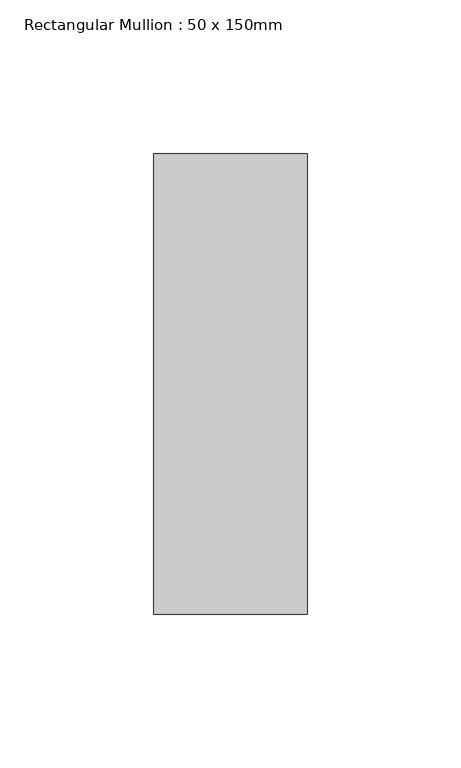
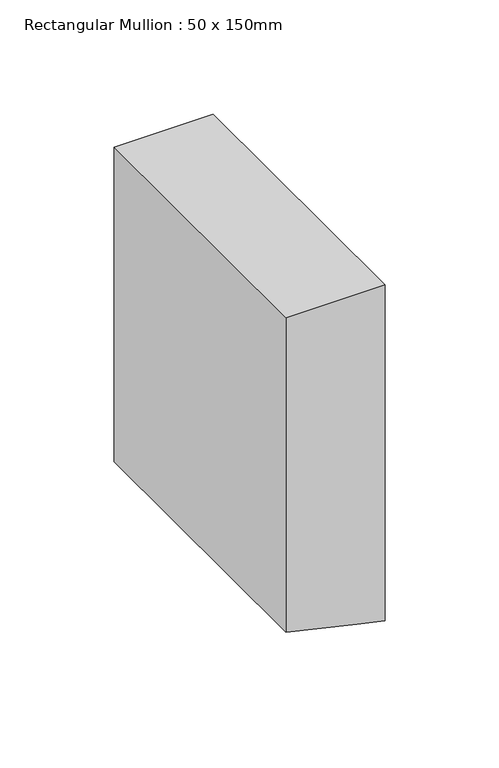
"""IFC4 building model written with IfcOpenShell, lengths in millimetres: member geometry, Rectangular Mullion : 50 x 150mm."""

import ifcopenshell
import ifcopenshell.guid

model = None  # the IFC model being written
_history = None  # IfcOwnerHistory: only IFC2X3 demands one
_inside = {}  # id of a spatial element -> (the spatial element, [elements in it])
_under = {}  # id of a project, library or spatial element -> (it, [spatial elements below it])
_declared = {}  # id of a project -> (the project, [libraries it declares])
_typed = {}  # id of a type object -> (the type object, [elements of that type])
_made_of = {}  # id of a material, layer set ... -> (it, [elements and type objects made of it])


def new_model(schema):
    """Start an empty IFC model of exactly this schema.

    Asked for "IFC4X3", IfcOpenShell would pick the latest addendum, in which some entities
    have other attributes; the version numbers below select the first issue.
    IFC2X3 requires an IfcOwnerHistory on every rooted entity: one is made here for all.
    """
    global model, _history
    if schema == "IFC4X3":
        model = ifcopenshell.file(schema_version=(4, 3, 0, 0))
    else:
        model = ifcopenshell.file(schema=schema)
    _inside.clear()
    _under.clear()
    _declared.clear()
    _typed.clear()
    _made_of.clear()
    _history = None
    if model.schema == "IFC2X3":
        org = make("IfcOrganization", Name="unknown")
        user = make(
            "IfcPersonAndOrganization",
            ThePerson=make("IfcPerson", FamilyName="unknown"),
            TheOrganization=org,
        )
        app = make(
            "IfcApplication",
            ApplicationDeveloper=org,
            Version="unknown",
            ApplicationFullName="unknown",
            ApplicationIdentifier="unknown",
        )
        _history = make(
            "IfcOwnerHistory",
            OwningUser=user,
            OwningApplication=app,
            ChangeAction="ADDED",
            CreationDate=0,
        )
    return model


def make(cls, **values):
    """One entity of the class cls with the attributes given. An attribute that is None is left unset."""
    return model.create_entity(
        cls, **{name: value for name, value in values.items() if value is not None}
    )


def rooted(cls, **values):
    """An entity with a GlobalId (a new one), such as an element, a storey or a relation."""
    return make(cls, GlobalId=ifcopenshell.guid.new(), OwnerHistory=_history, **values)


def si_unit(unit_type, name, prefix=None):
    """IfcSIUnit, for example si_unit("LENGTHUNIT", "METRE", prefix="MILLI")."""
    return make("IfcSIUnit", UnitType=unit_type, Prefix=prefix, Name=name)


def assignment(units):
    """IfcUnitAssignment: the units of a project."""
    return None if units is None else make("IfcUnitAssignment", Units=units)


def point(xyz):
    """IfcCartesianPoint."""
    return None if xyz is None else make("IfcCartesianPoint", Coordinates=xyz)


def direction(xyz):
    """IfcDirection."""
    return None if xyz is None else make("IfcDirection", DirectionRatios=xyz)


def frame(location, z_axis=None, x_axis=None):
    """IfcAxis2Placement3D, a coordinate frame: its origin and axes. An axis left out is left unset."""
    return make(
        "IfcAxis2Placement3D",
        Location=point(location),
        Axis=direction(z_axis),
        RefDirection=direction(x_axis),
    )


def origin():
    """The frame at (0, 0, 0) with its axes left unset."""
    return frame((0.0, 0.0, 0.0))


def place(relative_to, where):
    """IfcLocalPlacement: puts the frame where relative to a parent placement (None: the world)."""
    return make(
        "IfcLocalPlacement", PlacementRelTo=relative_to, RelativePlacement=where
    )


def context(
    kind, dimensions, precision=None, world=None, true_north=None, identifier=None
):
    """IfcGeometricRepresentationContext, for example the 3D "Model" context."""
    return make(
        "IfcGeometricRepresentationContext",
        ContextIdentifier=identifier,
        ContextType=kind,
        CoordinateSpaceDimension=dimensions,
        Precision=precision,
        WorldCoordinateSystem=world,
        TrueNorth=true_north,
    )


def project(units=None, contexts=None):
    """IfcProject with its units and contexts."""
    return rooted(
        "IfcProject",
        Name="project",
        RepresentationContexts=contexts,
        UnitsInContext=assignment(units),
    )


def spatial(cls, under=None, at=None, **own):
    """A site, building, storey or space (cls), placed at a placement, below another one or the project."""
    s = rooted(cls, ObjectPlacement=at, **own)
    if under is not None:
        _under.setdefault(under.id(), (under, []))[1].append(s)
    return s


def polyline(points):
    """IfcPolyline through the points."""
    return make("IfcPolyline", Points=[point(p) for p in points])


def outline(outer, holes=None, kind="AREA"):
    """IfcArbitraryClosedProfileDef: a profile drawn as a closed curve; with holes, ...WithVoids."""
    if holes is None:
        return make("IfcArbitraryClosedProfileDef", ProfileType=kind, OuterCurve=outer)
    return make(
        "IfcArbitraryProfileDefWithVoids",
        ProfileType=kind,
        OuterCurve=outer,
        InnerCurves=holes,
    )


def extrude(swept, where, along, depth):
    """IfcExtrudedAreaSolid: the profile swept, set in the frame where, extruded along a direction by depth."""
    return make(
        "IfcExtrudedAreaSolid",
        SweptArea=swept,
        Position=where,
        ExtrudedDirection=direction(along),
        Depth=depth,
    )


def shape(context_of_items, identifier, shape_type, items):
    """IfcShapeRepresentation: the items that make up one representation, for example the "Body"."""
    return make(
        "IfcShapeRepresentation",
        ContextOfItems=context_of_items,
        RepresentationIdentifier=identifier,
        RepresentationType=shape_type,
        Items=items,
    )


def source(mapping_origin, context_of_items, identifier, shape_type, items):
    """IfcRepresentationMap: a shape defined once, which mapped items show again and again."""
    return make(
        "IfcRepresentationMap",
        MappingOrigin=mapping_origin,
        MappedRepresentation=shape(context_of_items, identifier, shape_type, items),
    )


def transform(
    local_origin,
    x_axis=None,
    y_axis=None,
    z_axis=None,
    scale=None,
    scale2=None,
    scale3=None,
    uniform=True,
):
    """IfcCartesianTransformationOperator3D, or its non-uniform kind. x_axis, y_axis, z_axis: its Axis1, 2, 3."""
    if uniform:
        return make(
            "IfcCartesianTransformationOperator3D",
            Axis1=direction(x_axis),
            Axis2=direction(y_axis),
            LocalOrigin=point(local_origin),
            Scale=scale,
            Axis3=direction(z_axis),
        )
    return make(
        "IfcCartesianTransformationOperator3DnonUniform",
        Axis1=direction(x_axis),
        Axis2=direction(y_axis),
        LocalOrigin=point(local_origin),
        Scale=scale,
        Axis3=direction(z_axis),
        Scale2=scale2,
        Scale3=scale3,
    )


def mapped(mapping_source, mapping_target):
    """IfcMappedItem: shows the shape of a source again, moved by a transform."""
    return make(
        "IfcMappedItem", MappingSource=mapping_source, MappingTarget=mapping_target
    )


def made_of(thing, what):
    """Note that an element or type object is made of a material, layer set ...; save() writes the relation."""
    if what is not None:
        _made_of.setdefault(what.id(), (what, []))[1].append(thing)
    return thing


def element(
    cls,
    number,
    at=None,
    inside=None,
    cuts=None,
    type_object=None,
    material=None,
    context=None,
    identifier="Body",
    shape_type=None,
    held_by="IfcProductDefinitionShape",
    body=None,
    shapes=None,
    **own,
):
    """One element of the class cls, such as IfcWall. Its Tag is "e" and its number.

    at: its placement. inside: the storey or other place that contains it. cuts: it is an
    opening in that element (IfcRelVoidsElement). A single representation is given by context,
    identifier, shape_type and body (its items); several are given by shapes. held_by: the class
    of the entity that holds the representations. save() writes the other relations.
    """
    e = rooted(cls, Tag="e%d" % number, ObjectPlacement=at, **own)
    if body is not None:
        shapes = [shape(context, identifier, shape_type, body)]
    if shapes is not None:
        e.Representation = make(held_by, Representations=shapes)
    if inside is not None:
        _inside.setdefault(inside.id(), (inside, []))[1].append(e)
    if cuts is not None:
        rooted(
            "IfcRelVoidsElement", RelatingBuildingElement=cuts, RelatedOpeningElement=e
        )
    if type_object is not None:
        _typed.setdefault(type_object.id(), (type_object, []))[1].append(e)
    return made_of(e, material)


def aggregate(whole, parts):
    """IfcRelAggregates: a whole, such as a stair, and the parts it consists of."""
    return rooted("IfcRelAggregates", RelatingObject=whole, RelatedObjects=parts)


def save(model, path):
    """Write the relations noted so far, then the file.

    IfcRelAggregates (storeys below a building ...), IfcRelContainedInSpatialStructure (elements
    in a storey), IfcRelDefinesByType, IfcRelAssociatesMaterial and IfcRelDeclares: one each for
    every whole, place, type object, material and project.
    """
    for whole, parts in _under.values():
        aggregate(whole, parts)
    for where, things in _inside.values():
        rooted(
            "IfcRelContainedInSpatialStructure",
            RelatedElements=things,
            RelatingStructure=where,
        )
    for kind, things in _typed.values():
        rooted("IfcRelDefinesByType", RelatedObjects=things, RelatingType=kind)
    for what, things in _made_of.values():
        rooted("IfcRelAssociatesMaterial", RelatedObjects=things, RelatingMaterial=what)
    for by, libraries in _declared.values():
        rooted("IfcRelDeclares", RelatingContext=by, RelatedDefinitions=libraries)
    model.write(path)


def rectangular_mullion_50_x_150mm_3857c5c3(model_context):
    return source(origin(), model_context, "Body", "SweptSolid", [
        extrude(outline(polyline([(0.0, 25.0), (0.0, -25.0), (-167.9368682, -25.0), (-176.0657002, 11.0099035), (-179.2238076, 25.0), (0.0, 25.0)])), frame((0.0, -75.0, 0.0), z_axis=(0.0, 1.0, 0.0), x_axis=(0.0, 0.0, 1.0)), (0.0, 0.0, 1.0), 150.0),
    ])


if __name__ == "__main__":
    model = new_model("IFC4")
    model_context = context("Model", 3, world=origin())
    ifc_project = project(units=[si_unit("LENGTHUNIT", "METRE", prefix="MILLI")], contexts=[model_context])
    site = spatial("IfcSite", under=ifc_project)
    building = spatial("IfcBuilding", under=site)
    placement = place(None, origin())
    rectangular_mullion_50_x_150mm_shape = rectangular_mullion_50_x_150mm_3857c5c3(model_context)
    element("IfcMember", 1, ObjectType="Rectangular Mullion : 50 x 150mm", at=placement, inside=building, context=model_context, shape_type="MappedRepresentation", body=[
        mapped(rectangular_mullion_50_x_150mm_shape, transform((0.0, 0.0, 0.0), x_axis=(1.0, 0.0, 0.0), y_axis=(0.0, 1.0, 0.0), z_axis=(0.0, 0.0, 1.0))),
    ])
    save(model, "model.ifc")
